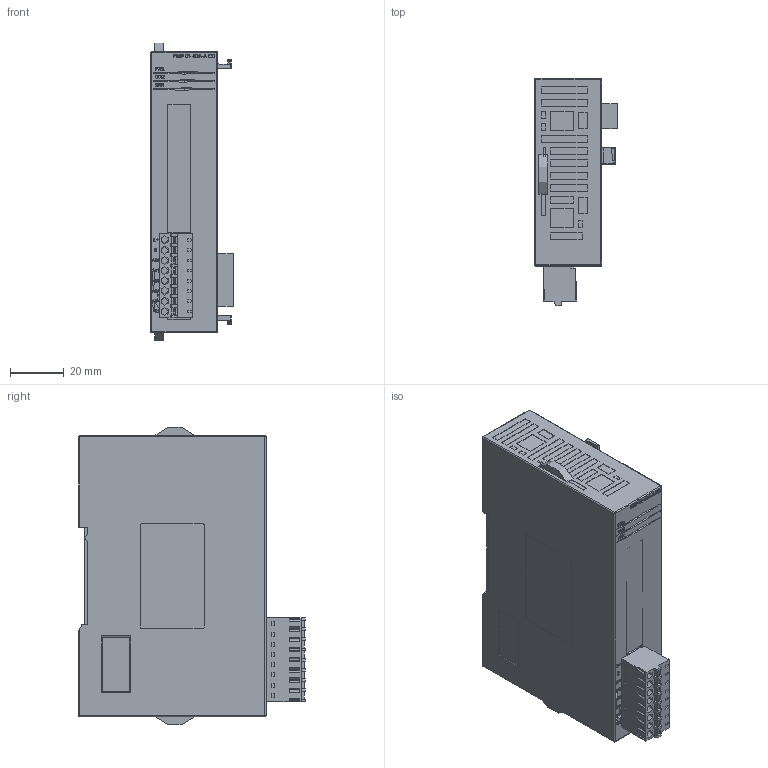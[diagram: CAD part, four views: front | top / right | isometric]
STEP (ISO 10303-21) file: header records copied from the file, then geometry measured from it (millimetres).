
FILE_DESCRIPTION(('STEP AP242'), '1');
FILE_NAME('PMP-01-4DA-A-ED', '', ('UNSPECIFIED'), ('UNSPECIFIED'), 'C3D Converter', 'C3D Toolkit', '');
FILE_SCHEMA(('AP242_MANAGED_MODEL_BASED_3D_ENGINEERING_MIM_LF { 1 0 10303 442 1 1 4 }'));
Length unit declared in the file: millimetre
Products named in the file (1): PMP-01-4DA-A-ED
Bounding box: 30.8 x 84.71 x 110.91 mm (x, y, z)
Surface area: 29154.6 mm2
Topology: 15 solids, 32 shells, 1319 faces, 3519 edges, 2348 vertices
Faces by surface type: plane 977, bspline 172, cylinder 86, extrusion 84
Full cylindrical faces by diameter (mm): 3 x8
Entity records: 66922 total; most frequent: CARTESIAN_POINT 24881, ORIENTED_EDGE 6916, DIRECTION 5240, EDGE_CURVE 3510, VECTOR 2686, LINE 2602, VERTEX_POINT 2348, EDGE_LOOP 1490
